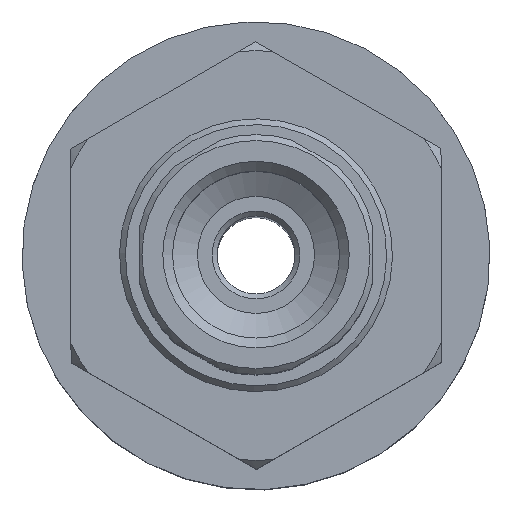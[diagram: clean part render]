
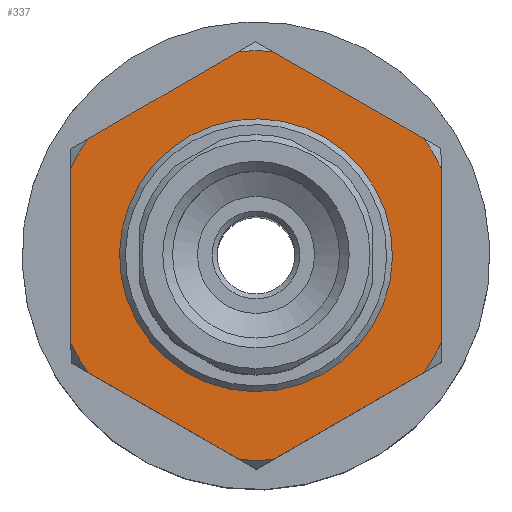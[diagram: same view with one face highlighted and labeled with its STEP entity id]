
A CAD part, top view. The second image highlights one B-rep face of the part: STEP entity #337.
In plain terms, the highlighted planar face has unit normal (0, 0, 1).
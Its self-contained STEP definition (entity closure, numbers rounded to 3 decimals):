
#337=ADVANCED_FACE('',(#653,#654),#655,.T.);
#653=FACE_BOUND('',#1040,.T.);
#654=FACE_OUTER_BOUND('',#1041,.T.);
#655=PLANE('',#1042);
#1040=EDGE_LOOP('',(#3482));
#1041=EDGE_LOOP('',(#3483,#3484,#3485,#3486,#3487,#3488,#3489,#3490,#3491,#3492,#3493,#3494));
#1042=AXIS2_PLACEMENT_3D('',#3495,#3496,#3497);
#3482=ORIENTED_EDGE('',*,*,#4276,.F.);
#3483=ORIENTED_EDGE('',*,*,#4278,.F.);
#3484=ORIENTED_EDGE('',*,*,#4211,.T.);
#3485=ORIENTED_EDGE('',*,*,#4244,.F.);
#3486=ORIENTED_EDGE('',*,*,#4273,.T.);
#3487=ORIENTED_EDGE('',*,*,#4229,.F.);
#3488=ORIENTED_EDGE('',*,*,#4264,.T.);
#3489=ORIENTED_EDGE('',*,*,#4221,.F.);
#3490=ORIENTED_EDGE('',*,*,#4252,.T.);
#3491=ORIENTED_EDGE('',*,*,#4237,.F.);
#3492=ORIENTED_EDGE('',*,*,#4247,.T.);
#3493=ORIENTED_EDGE('',*,*,#4279,.F.);
#3494=ORIENTED_EDGE('',*,*,#4256,.T.);
#3495=CARTESIAN_POINT('',(17.321,10.0,0.0));
#3496=DIRECTION('',(0.0,0.0,1.0));
#3497=DIRECTION('',(1.0,0.0,0.0));
#4211=EDGE_CURVE('',#4548,#4546,#4549,.T.);
#4221=EDGE_CURVE('',#4565,#4553,#4567,.T.);
#4229=EDGE_CURVE('',#4579,#4570,#4581,.T.);
#4237=EDGE_CURVE('',#4593,#4583,#4595,.T.);
#4244=EDGE_CURVE('',#4604,#4546,#4606,.T.);
#4247=EDGE_CURVE('',#4593,#4608,#4610,.T.);
#4252=EDGE_CURVE('',#4565,#4583,#4616,.T.);
#4256=EDGE_CURVE('',#4618,#4621,#4623,.T.);
#4264=EDGE_CURVE('',#4579,#4553,#4634,.T.);
#4273=EDGE_CURVE('',#4604,#4570,#4644,.T.);
#4276=EDGE_CURVE('',#4648,#4648,#4649,.T.);
#4278=EDGE_CURVE('',#4548,#4621,#4651,.T.);
#4279=EDGE_CURVE('',#4618,#4608,#4652,.T.);
#4546=VERTEX_POINT('',#5028);
#4548=VERTEX_POINT('',#5033);
#4549=CIRCLE('',#5034,10.499);
#4553=VERTEX_POINT('',#5041);
#4565=VERTEX_POINT('',#5065);
#4567=LINE('',#5070,#5071);
#4570=VERTEX_POINT('',#5074);
#4579=VERTEX_POINT('',#5094);
#4581=LINE('',#5099,#5100);
#4583=VERTEX_POINT('',#5102);
#4593=VERTEX_POINT('',#5123);
#4595=LINE('',#5128,#5129);
#4604=VERTEX_POINT('',#5146);
#4606=LINE('',#5151,#5152);
#4608=VERTEX_POINT('',#5154);
#4610=CIRCLE('',#5159,10.499);
#4616=CIRCLE('',#5168,10.499);
#4618=VERTEX_POINT('',#5170);
#4621=VERTEX_POINT('',#5176);
#4623=CIRCLE('',#5181,10.499);
#4634=CIRCLE('',#5198,10.499);
#4644=CIRCLE('',#5211,10.499);
#4648=VERTEX_POINT('',#5215);
#4649=CIRCLE('',#5216,6.5);
#4651=LINE('',#5218,#5219);
#4652=LINE('',#5220,#5221);
#5028=CARTESIAN_POINT('',(4.469,9.5,0.0));
#5033=CARTESIAN_POINT('',(5.997,8.617,0.0));
#5034=AXIS2_PLACEMENT_3D('',#6422,#6423,#6424);
#5041=CARTESIAN_POINT('',(-10.462,-0.879,0.0));
#5065=CARTESIAN_POINT('',(-5.993,-8.621,0.0));
#5070=CARTESIAN_POINT('',(-5.485,-9.5,0.0));
#5071=VECTOR('',#6428,1.0);
#5074=CARTESIAN_POINT('',(-5.993,8.621,0.0));
#5094=CARTESIAN_POINT('',(-10.462,0.879,0.0));
#5099=CARTESIAN_POINT('',(-10.97,0.0,0.0));
#5100=VECTOR('',#6431,1.0);
#5102=CARTESIAN_POINT('',(-4.469,-9.5,0.0));
#5123=CARTESIAN_POINT('',(4.469,-9.5,0.0));
#5128=CARTESIAN_POINT('',(5.485,-9.5,0.0));
#5129=VECTOR('',#6434,1.0);
#5146=CARTESIAN_POINT('',(-4.469,9.5,0.0));
#5151=CARTESIAN_POINT('',(-5.485,9.5,0.0));
#5152=VECTOR('',#6437,1.0);
#5154=CARTESIAN_POINT('',(5.997,-8.617,0.0));
#5159=AXIS2_PLACEMENT_3D('',#6438,#6439,#6440);
#5168=AXIS2_PLACEMENT_3D('',#6444,#6445,#6446);
#5170=CARTESIAN_POINT('',(10.457,-0.933,0.0));
#5176=CARTESIAN_POINT('',(10.457,0.933,0.0));
#5181=AXIS2_PLACEMENT_3D('',#6447,#6448,#6449);
#5198=AXIS2_PLACEMENT_3D('',#6456,#6457,#6458);
#5211=AXIS2_PLACEMENT_3D('',#6468,#6469,#6470);
#5215=CARTESIAN_POINT('',(6.5,0.0,0.0));
#5216=AXIS2_PLACEMENT_3D('',#6474,#6475,#6476);
#5218=CARTESIAN_POINT('',(5.485,9.5,0.0));
#5219=VECTOR('',#6477,1.0);
#5220=CARTESIAN_POINT('',(10.999,0.0,0.0));
#5221=VECTOR('',#6478,1.0);
#6422=CARTESIAN_POINT('',(0.0,0.0,0.0));
#6423=DIRECTION('',(0.0,0.0,1.0));
#6424=DIRECTION('',(1.0,0.0,0.0));
#6428=DIRECTION('',(-0.5,0.866,0.0));
#6431=DIRECTION('',(0.5,0.866,0.0));
#6434=DIRECTION('',(-1.0,0.0,0.0));
#6437=DIRECTION('',(1.0,0.0,0.0));
#6438=CARTESIAN_POINT('',(0.0,0.0,0.0));
#6439=DIRECTION('',(0.0,0.0,1.0));
#6440=DIRECTION('',(1.0,0.0,0.0));
#6444=CARTESIAN_POINT('',(0.0,0.0,0.0));
#6445=DIRECTION('',(0.0,0.0,1.0));
#6446=DIRECTION('',(1.0,0.0,0.0));
#6447=CARTESIAN_POINT('',(0.0,0.0,0.0));
#6448=DIRECTION('',(0.0,0.0,1.0));
#6449=DIRECTION('',(1.0,0.0,0.0));
#6456=CARTESIAN_POINT('',(0.0,0.0,0.0));
#6457=DIRECTION('',(0.0,0.0,1.0));
#6458=DIRECTION('',(1.0,0.0,0.0));
#6468=CARTESIAN_POINT('',(0.0,0.0,0.0));
#6469=DIRECTION('',(0.0,0.0,1.0));
#6470=DIRECTION('',(1.0,0.0,0.0));
#6474=CARTESIAN_POINT('',(0.,0.0,0.0));
#6475=DIRECTION('',(0.0,0.0,1.0));
#6476=DIRECTION('',(1.0,0.0,0.0));
#6477=DIRECTION('',(0.502,-0.865,0.0));
#6478=DIRECTION('',(-0.502,-0.865,0.0));
